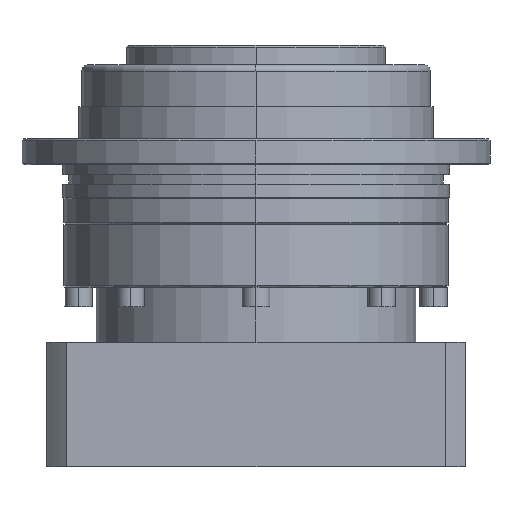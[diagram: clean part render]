
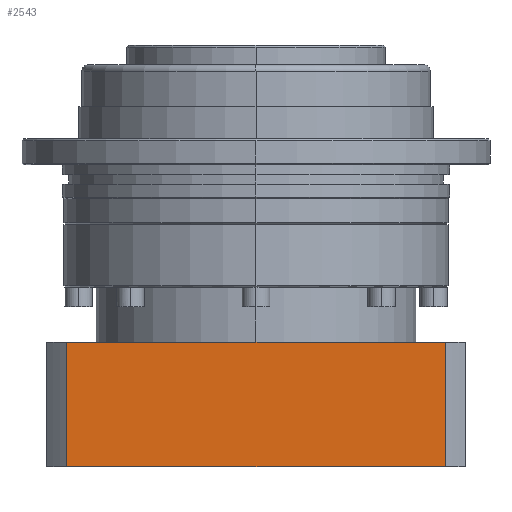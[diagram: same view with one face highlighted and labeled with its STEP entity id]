
A CAD part, left-side view. The second image highlights one B-rep face of the part: STEP entity #2543.
In plain terms, the highlighted planar face has unit normal (-1, 0, 0).
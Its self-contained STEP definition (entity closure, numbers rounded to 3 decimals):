
#97 = VERTEX_POINT ( 'NONE', #4532 ) ;
#103 = CARTESIAN_POINT ( 'NONE',  ( -65., -58.577, -93.5 ) ) ;
#402 = CARTESIAN_POINT ( 'NONE',  ( -65., 0., -93.5 ) ) ;
#798 = CARTESIAN_POINT ( 'NONE',  ( -65., 58.577, -93.5 ) ) ;
#1110 = ORIENTED_EDGE ( 'NONE', *, *, #5944, .T. ) ;
#1691 = VERTEX_POINT ( 'NONE', #798 ) ;
#1899 = CARTESIAN_POINT ( 'NONE',  ( -65., 0., -55. ) ) ;
#2262 = ORIENTED_EDGE ( 'NONE', *, *, #3397, .F. ) ;
#2264 = CARTESIAN_POINT ( 'NONE',  ( -65., 58.577, -93.5 ) ) ;
#2307 = VERTEX_POINT ( 'NONE', #3808 ) ;
#2543 = ADVANCED_FACE ( 'NONE', ( #4206 ), #2570, .T. ) ;
#2570 = PLANE ( 'NONE',  #3558 ) ;
#2643 = VECTOR ( 'NONE', #5527, 1000. ) ;
#3092 = ORIENTED_EDGE ( 'NONE', *, *, #5965, .F. ) ;
#3356 = EDGE_CURVE ( 'NONE', #2307, #5408, #5852, .T. ) ;
#3397 = EDGE_CURVE ( 'NONE', #97, #5408, #3586, .T. ) ;
#3558 = AXIS2_PLACEMENT_3D ( 'NONE', #4704, #5899, #3676 ) ;
#3586 = LINE ( 'NONE', #1899, #4364 ) ;
#3676 = DIRECTION ( 'NONE',  ( 0., -1., 0. ) ) ;
#3808 = CARTESIAN_POINT ( 'NONE',  ( -65., -58.577, -93.5 ) ) ;
#4206 = FACE_OUTER_BOUND ( 'NONE', #5326, .T. ) ;
#4364 = VECTOR ( 'NONE', #5757, 1000. ) ;
#4468 = DIRECTION ( 'NONE',  ( 0., 0., 1. ) ) ;
#4532 = CARTESIAN_POINT ( 'NONE',  ( -65., 58.577, -55. ) ) ;
#4704 = CARTESIAN_POINT ( 'NONE',  ( -65., 0., -93.5 ) ) ;
#5326 = EDGE_LOOP ( 'NONE', ( #2262, #3092, #1110, #6956 ) ) ;
#5408 = VERTEX_POINT ( 'NONE', #6912 ) ;
#5527 = DIRECTION ( 'NONE',  ( 0., -1., 0. ) ) ;
#5598 = LINE ( 'NONE', #402, #2643 ) ;
#5694 = DIRECTION ( 'NONE',  ( 0., 0., 1. ) ) ;
#5757 = DIRECTION ( 'NONE',  ( 0., -1., 0. ) ) ;
#5766 = LINE ( 'NONE', #2264, #6865 ) ;
#5852 = LINE ( 'NONE', #103, #5929 ) ;
#5899 = DIRECTION ( 'NONE',  ( -1., 0., 0. ) ) ;
#5929 = VECTOR ( 'NONE', #5694, 1000. ) ;
#5944 = EDGE_CURVE ( 'NONE', #1691, #2307, #5598, .T. ) ;
#5965 = EDGE_CURVE ( 'NONE', #1691, #97, #5766, .T. ) ;
#6865 = VECTOR ( 'NONE', #4468, 1000. ) ;
#6912 = CARTESIAN_POINT ( 'NONE',  ( -65., -58.577, -55. ) ) ;
#6956 = ORIENTED_EDGE ( 'NONE', *, *, #3356, .T. ) ;
